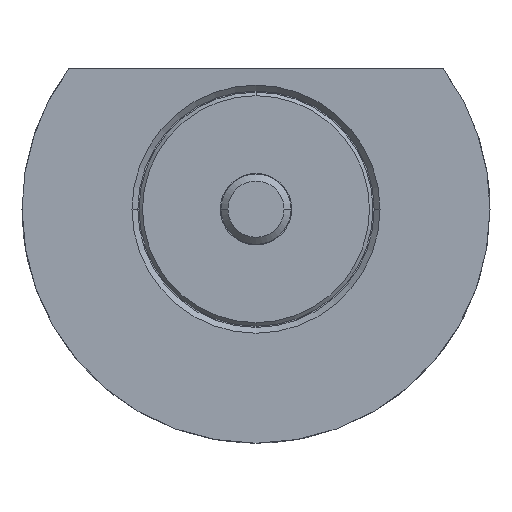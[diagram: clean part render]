
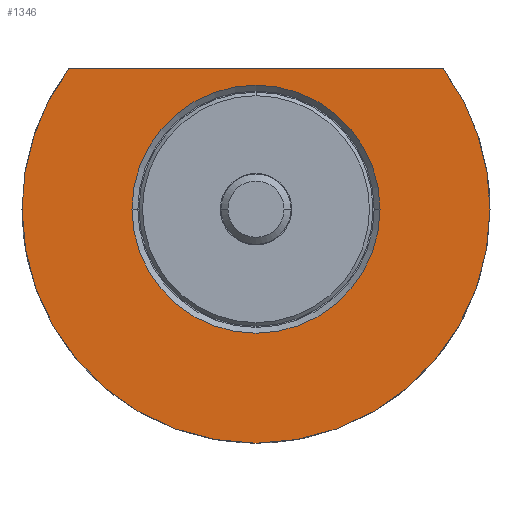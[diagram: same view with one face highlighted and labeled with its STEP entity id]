
A CAD part, front view. The second image highlights one B-rep face of the part: STEP entity #1346.
In plain terms, the highlighted planar face has unit normal (0, -1, 0).
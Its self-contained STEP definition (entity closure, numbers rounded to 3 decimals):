
#70 = DIRECTION ( 'NONE',  ( 0., 1., 0. ) ) ;
#140 = CIRCLE ( 'NONE', #2370, 20. ) ;
#341 = DIRECTION ( 'NONE',  ( -1., 0., 0. ) ) ;
#345 = CIRCLE ( 'NONE', #1825, 20. ) ;
#357 = DIRECTION ( 'NONE',  ( -1., 0., 0. ) ) ;
#405 = DIRECTION ( 'NONE',  ( 0., 1., 0. ) ) ;
#447 = CARTESIAN_POINT ( 'NONE',  ( 0., -10., 0. ) ) ;
#521 = CARTESIAN_POINT ( 'NONE',  ( 16.001, -10., 11.999 ) ) ;
#546 = CIRCLE ( 'NONE', #1150, 10.6 ) ;
#567 = FACE_BOUND ( 'NONE', #2243, .T. ) ;
#601 = FACE_OUTER_BOUND ( 'NONE', #1711, .T. ) ;
#638 = CIRCLE ( 'NONE', #804, 20. ) ;
#679 = DIRECTION ( 'NONE',  ( 0., 1., 0. ) ) ;
#683 = ORIENTED_EDGE ( 'NONE', *, *, #1730, .F. ) ;
#705 = CARTESIAN_POINT ( 'NONE',  ( -20., -10., 0. ) ) ;
#741 = DIRECTION ( 'NONE',  ( 0., 1., 0. ) ) ;
#748 = CARTESIAN_POINT ( 'NONE',  ( 20., -10., 0. ) ) ;
#777 = EDGE_CURVE ( 'NONE', #1714, #1062, #638, .T. ) ;
#804 = AXIS2_PLACEMENT_3D ( 'NONE', #1507, #2363, #357 ) ;
#870 = EDGE_CURVE ( 'NONE', #1817, #1308, #546, .T. ) ;
#1025 = EDGE_CURVE ( 'NONE', #1219, #1062, #1808, .T. ) ;
#1048 = ORIENTED_EDGE ( 'NONE', *, *, #1025, .T. ) ;
#1062 = VERTEX_POINT ( 'NONE', #1285 ) ;
#1102 = VECTOR ( 'NONE', #2419, 1000. ) ;
#1150 = AXIS2_PLACEMENT_3D ( 'NONE', #1731, #741, #341 ) ;
#1206 = VERTEX_POINT ( 'NONE', #748 ) ;
#1219 = VERTEX_POINT ( 'NONE', #521 ) ;
#1285 = CARTESIAN_POINT ( 'NONE',  ( -16.001, -10., 11.999 ) ) ;
#1293 = ORIENTED_EDGE ( 'NONE', *, *, #870, .T. ) ;
#1308 = VERTEX_POINT ( 'NONE', #2311 ) ;
#1346 = ADVANCED_FACE ( 'NONE', ( #567, #601 ), #1773, .T. ) ;
#1394 = ORIENTED_EDGE ( 'NONE', *, *, #1405, .F. ) ;
#1405 = EDGE_CURVE ( 'NONE', #1206, #1714, #345, .T. ) ;
#1412 = ORIENTED_EDGE ( 'NONE', *, *, #2037, .T. ) ;
#1487 = DIRECTION ( 'NONE',  ( -1., 0., 0. ) ) ;
#1496 = DIRECTION ( 'NONE',  ( -1., 0., 0. ) ) ;
#1507 = CARTESIAN_POINT ( 'NONE',  ( 0., -10., 0. ) ) ;
#1531 = CIRCLE ( 'NONE', #1994, 10.6 ) ;
#1603 = CARTESIAN_POINT ( 'NONE',  ( -10.6, -10., 11.999 ) ) ;
#1711 = EDGE_LOOP ( 'NONE', ( #683, #1048, #2535, #1394 ) ) ;
#1714 = VERTEX_POINT ( 'NONE', #705 ) ;
#1730 = EDGE_CURVE ( 'NONE', #1219, #1206, #140, .T. ) ;
#1731 = CARTESIAN_POINT ( 'NONE',  ( 0., -10., 0. ) ) ;
#1762 = DIRECTION ( 'NONE',  ( 0., -1., 0. ) ) ;
#1773 = PLANE ( 'NONE',  #2077 ) ;
#1808 = LINE ( 'NONE', #1603, #1102 ) ;
#1817 = VERTEX_POINT ( 'NONE', #2586 ) ;
#1825 = AXIS2_PLACEMENT_3D ( 'NONE', #2618, #405, #2216 ) ;
#1932 = CARTESIAN_POINT ( 'NONE',  ( 0., -10., 0. ) ) ;
#1994 = AXIS2_PLACEMENT_3D ( 'NONE', #447, #70, #1496 ) ;
#2037 = EDGE_CURVE ( 'NONE', #1308, #1817, #1531, .T. ) ;
#2077 = AXIS2_PLACEMENT_3D ( 'NONE', #2414, #1762, #2373 ) ;
#2216 = DIRECTION ( 'NONE',  ( -1., 0., 0. ) ) ;
#2243 = EDGE_LOOP ( 'NONE', ( #1412, #1293 ) ) ;
#2311 = CARTESIAN_POINT ( 'NONE',  ( 10.6, -10., 0. ) ) ;
#2363 = DIRECTION ( 'NONE',  ( 0., 1., 0. ) ) ;
#2370 = AXIS2_PLACEMENT_3D ( 'NONE', #1932, #679, #1487 ) ;
#2373 = DIRECTION ( 'NONE',  ( 1., 0., 0. ) ) ;
#2414 = CARTESIAN_POINT ( 'NONE',  ( -10.6, -10., 0. ) ) ;
#2419 = DIRECTION ( 'NONE',  ( -1., 0., 0. ) ) ;
#2535 = ORIENTED_EDGE ( 'NONE', *, *, #777, .F. ) ;
#2586 = CARTESIAN_POINT ( 'NONE',  ( -10.6, -10., 0. ) ) ;
#2618 = CARTESIAN_POINT ( 'NONE',  ( 0., -10., 0. ) ) ;
